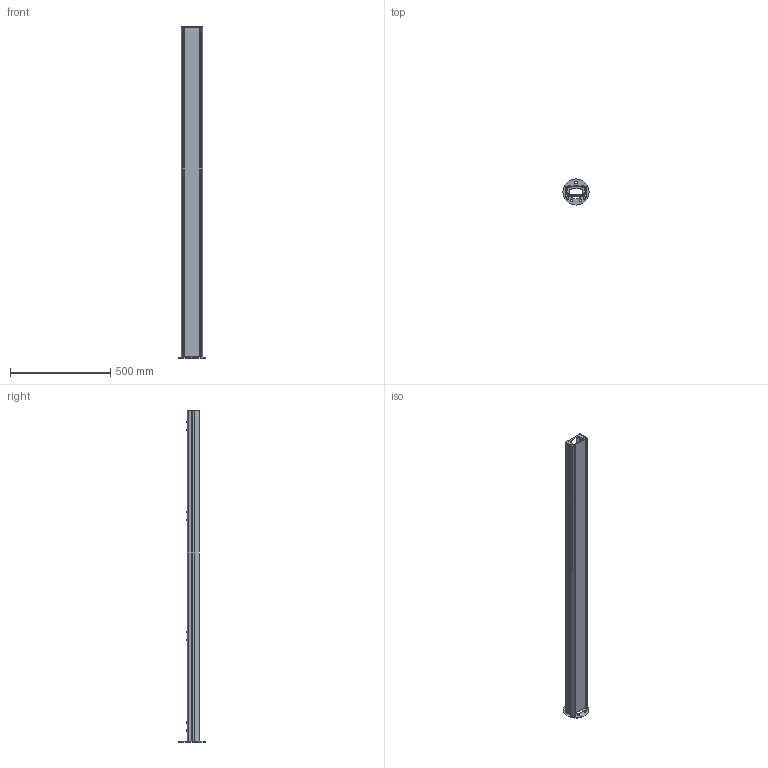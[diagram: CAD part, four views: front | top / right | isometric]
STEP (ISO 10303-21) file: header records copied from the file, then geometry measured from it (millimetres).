
FILE_DESCRIPTION(/* description */ (''),/* implementation_level */ '2;1');
FILE_NAME(/* name */ '0003A__SINGLE_MIRROR_WITH_GASKET-1650mm.stp',/* time_stamp */ '2025-11-12T15:24:22+01:00',/* author */ (''),/* organization */ (''),/* preprocessor_version */ 'ST-DEVELOPER v20',/* originating_system */ 'SIEMENS PLM Software NX2412.4001',/* authorisation */ '');
FILE_SCHEMA (('AP203_CONFIGURATION_CONTROLLED_3D_DESIGN_OF_MECHANICAL_PARTS_AND_ASSEMBLIES_MIM_LF { 1 0 10303 403 2 1 2}'));
Products named in the file (1): AS007808_objects
Bounding box: 130 x 130 x 1658.25 mm (x, y, z)
Volume: 6510139.4 mm3; surface area: 6294146.3 mm2
Topology: 105 solids, 105 shells, 4899 faces, 13890 edges, 9237 vertices
Faces by surface type: plane 2550, cylinder 1521, cone 796, torus 22, bspline 6, sphere 4
Full cylindrical faces by diameter (mm): 4.2 x16, 5 x280, 5.25 x2, 5.3 x16, 5.5 x32, 5.6 x16, 5.795 x2, 7 x16, 7.2 x4, 8.5 x16, 10 x16, 12 x5, 68 x1, 130 x1
Entity records: 174287 total; most frequent: CARTESIAN_POINT 40936, DIRECTION 28440, ORIENTED_EDGE 26312, EDGE_CURVE 13156, AXIS2_PLACEMENT_3D 10844, VERTEX_POINT 8958, LINE 6752, VECTOR 6752
